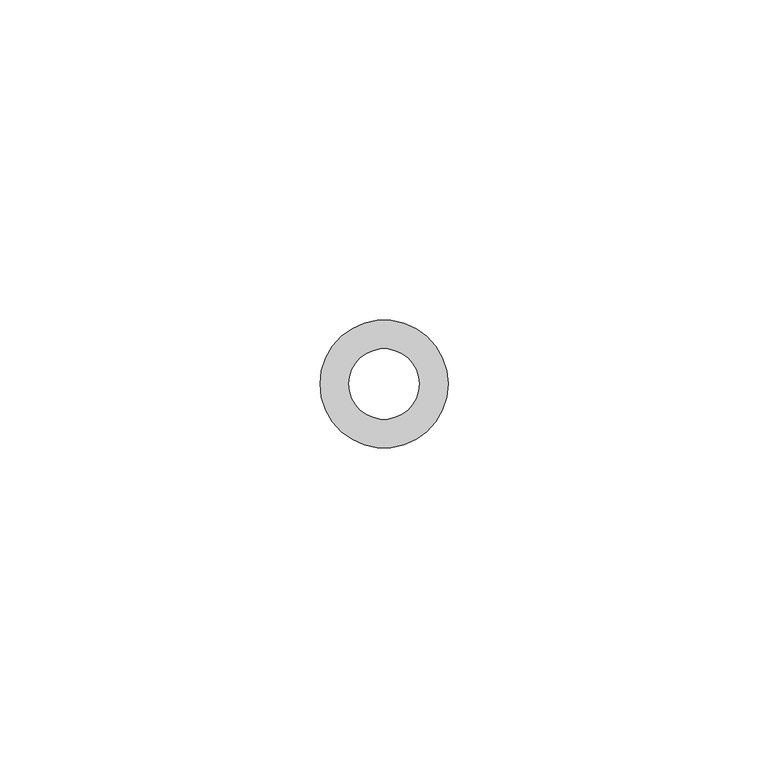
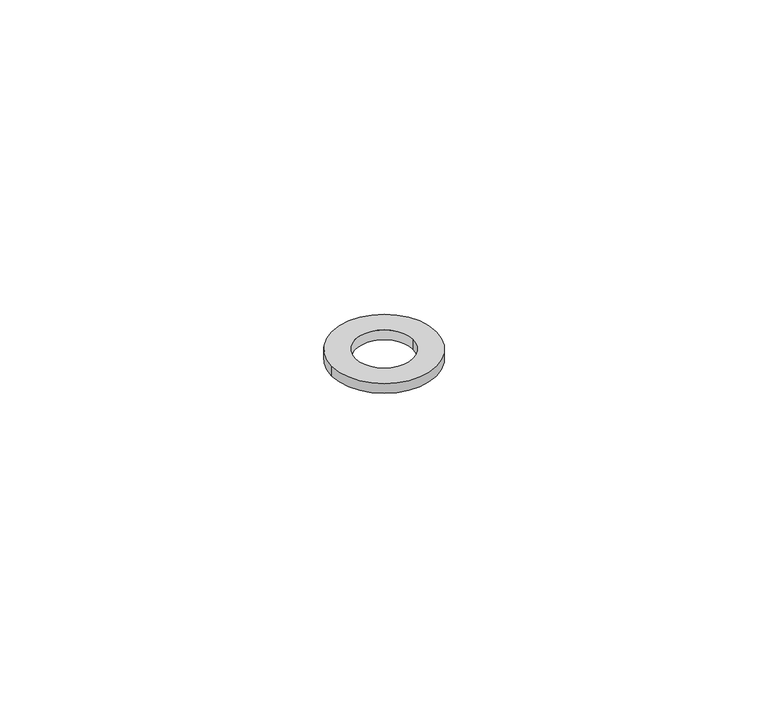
"""IFC4 building model written with IfcOpenShell, lengths in millimetres: valve geometry, Superfix Flat Washer : Superfix Flat Washer EXtra +  M10x20x1.5."""

from ifc_helpers import new_model, si_unit, point, origin, origin_with_axes, origin_2d, place, context, project, spatial, circle_curve, trimmed, segment, composite_curve, outline, extrude, source, transform, mapped, element, save


def valve_cdfc1e77(model_context):
    return source(origin(), model_context, "Body", "SweptSolid", [
        extrude(outline(composite_curve([segment(trimmed(circle_curve(origin_2d(), 10.0), [point((-10.0, 0.0))], [point((10.0, 0.0))], False, "CARTESIAN"), True, "CONTINUOUS"), segment(trimmed(circle_curve(origin_2d(), 10.0), [point((10.0, 0.0))], [point((-10.0, 0.0))], False, "CARTESIAN"), True, "CONTINUOUS")], self_intersect=False), holes=[composite_curve([segment(trimmed(circle_curve(origin_2d(), 5.5), [point((-5.5, 0.0))], [point((5.5, 0.0))], True, "CARTESIAN"), True, "CONTINUOUS"), segment(trimmed(circle_curve(origin_2d(), 5.5), [point((5.5, 0.0))], [point((-5.5, 0.0))], True, "CARTESIAN"), True, "CONTINUOUS")], self_intersect=False)]), origin_with_axes(), (0.0, 0.0, 1.0), 2.0),
    ])


if __name__ == "__main__":
    model = new_model("IFC4")
    model_context = context("Model", 3, world=origin())
    ifc_project = project(units=[si_unit("LENGTHUNIT", "METRE", prefix="MILLI")], contexts=[model_context])
    site = spatial("IfcSite", under=ifc_project)
    building = spatial("IfcBuilding", under=site)
    placement = place(None, origin())
    valve_shape = valve_cdfc1e77(model_context)
    element("IfcValve", 1, ObjectType="Superfix Flat Washer : Superfix Flat Washer EXtra +  M10x20x1.5", at=placement, inside=building, context=model_context, shape_type="MappedRepresentation", body=[
        mapped(valve_shape, transform((0.0, 0.0, 0.0), x_axis=(1.0, 0.0, 0.0), y_axis=(0.0, 1.0, 0.0), z_axis=(0.0, 0.0, 1.0))),
    ])
    save(model, "model.ifc")
